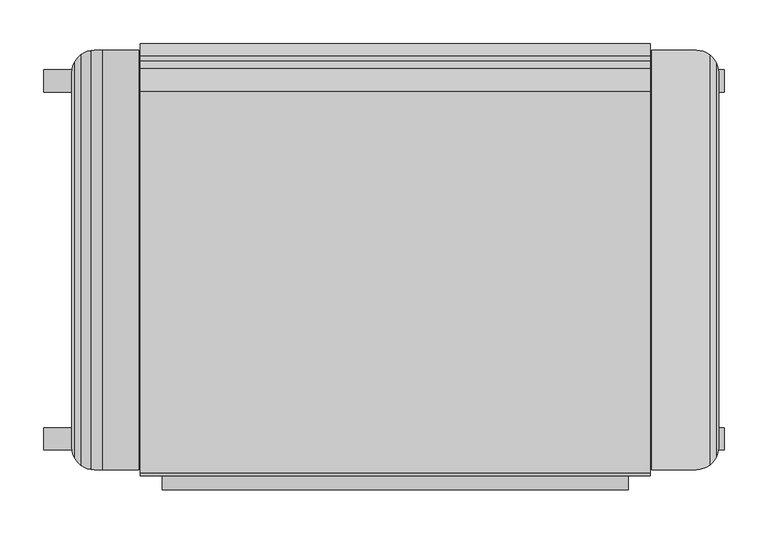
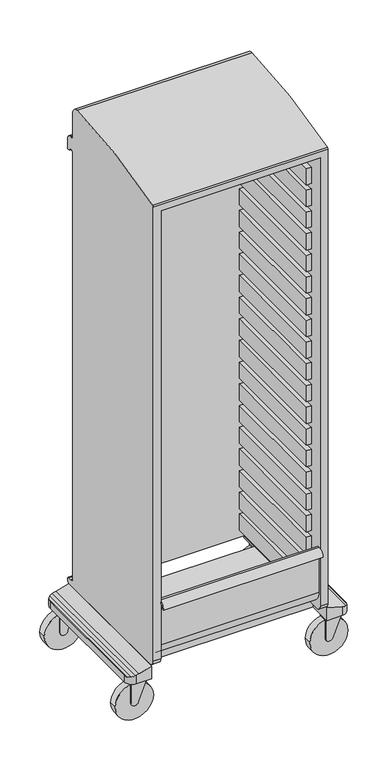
"""IFC4 building model written with IfcOpenShell, lengths in millimetres: furniture geometry."""

from ifc_helpers import new_model, si_unit, point, frame, frame_2d, origin, place, context, project, spatial, polyline, circle_curve, ellipse_curve, trimmed, segment, composite_curve, outline, extrude, source, transform, mapped, element, save
from ifc_brep_helpers import plane_surface, cylinder_surface, revolved_surface, advanced_brep


def furniture_57446897(model_context):
    return source(origin(), model_context, "Body", "SolidModel", [
        extrude(outline(polyline([(-249.2375, -195.2625), (-265.1125, -195.2625), (-265.1125, 192.0875), (-249.2375, 192.0875), (-249.2375, -195.2625)])), frame((0.0, 0.0, 428.625), z_axis=(0.0, 0.0, 1.0), x_axis=(1.0, 0.0, 0.0)), (0.0, 0.0, 1.0), 57.15),
        extrude(outline(polyline([(265.1125, -195.2625), (249.2375, -195.2625), (249.2375, 192.0875), (265.1125, 192.0875), (265.1125, -195.2625)])), frame((0.0, 0.0, 428.625), z_axis=(0.0, 0.0, 1.0), x_axis=(1.0, 0.0, 0.0)), (0.0, 0.0, 1.0), 57.15),
        extrude(outline(polyline([(-249.2375, -195.2625), (-265.1125, -195.2625), (-265.1125, 192.0875), (-249.2375, 192.0875), (-249.2375, -195.2625)])), frame((0.0, 0.0, 352.425), z_axis=(0.0, 0.0, 1.0), x_axis=(1.0, 0.0, 0.0)), (0.0, 0.0, 1.0), 57.15),
        extrude(outline(polyline([(265.1125, -195.2625), (249.2375, -195.2625), (249.2375, 192.0875), (265.1125, 192.0875), (265.1125, -195.2625)])), frame((0.0, 0.0, 352.425), z_axis=(0.0, 0.0, 1.0), x_axis=(1.0, 0.0, 0.0)), (0.0, 0.0, 1.0), 57.15),
        extrude(outline(polyline([(-249.2375, -195.2625), (-265.1125, -195.2625), (-265.1125, 192.0875), (-249.2375, 192.0875), (-249.2375, -195.2625)])), frame((0.0, 0.0, 276.225), z_axis=(0.0, 0.0, 1.0), x_axis=(1.0, 0.0, 0.0)), (0.0, 0.0, 1.0), 57.15),
        extrude(outline(polyline([(265.1125, -195.2625), (249.2375, -195.2625), (249.2375, 192.0875), (265.1125, 192.0875), (265.1125, -195.2625)])), frame((0.0, 0.0, 276.225), z_axis=(0.0, 0.0, 1.0), x_axis=(1.0, 0.0, 0.0)), (0.0, 0.0, 1.0), 57.15),
        extrude(outline(polyline([(-249.2375, -195.2625), (-265.1125, -195.2625), (-265.1125, 192.0875), (-249.2375, 192.0875), (-249.2375, -195.2625)])), frame((0.0, 0.0, 200.025), z_axis=(0.0, 0.0, 1.0), x_axis=(1.0, 0.0, 0.0)), (0.0, 0.0, 1.0), 57.15),
        extrude(outline(polyline([(265.1125, -195.2625), (249.2375, -195.2625), (249.2375, 192.0875), (265.1125, 192.0875), (265.1125, -195.2625)])), frame((0.0, 0.0, 200.025), z_axis=(0.0, 0.0, 1.0), x_axis=(1.0, 0.0, 0.0)), (0.0, 0.0, 1.0), 57.15),
        extrude(outline(polyline([(-249.2375, -195.2625), (-265.1125, -195.2625), (-265.1125, 192.0875), (-249.2375, 192.0875), (-249.2375, -195.2625)])), frame((0.0, 0.0, 733.425), z_axis=(0.0, 0.0, 1.0), x_axis=(1.0, 0.0, 0.0)), (0.0, 0.0, 1.0), 57.15),
        extrude(outline(polyline([(265.1125, -195.2625), (249.2375, -195.2625), (249.2375, 192.0875), (265.1125, 192.0875), (265.1125, -195.2625)])), frame((0.0, 0.0, 733.425), z_axis=(0.0, 0.0, 1.0), x_axis=(1.0, 0.0, 0.0)), (0.0, 0.0, 1.0), 57.15),
        extrude(outline(polyline([(-249.2375, -195.2625), (-265.1125, -195.2625), (-265.1125, 192.0875), (-249.2375, 192.0875), (-249.2375, -195.2625)])), frame((0.0, 0.0, 657.225), z_axis=(0.0, 0.0, 1.0), x_axis=(1.0, 0.0, 0.0)), (0.0, 0.0, 1.0), 57.15),
        extrude(outline(polyline([(265.1125, -195.2625), (249.2375, -195.2625), (249.2375, 192.0875), (265.1125, 192.0875), (265.1125, -195.2625)])), frame((0.0, 0.0, 657.225), z_axis=(0.0, 0.0, 1.0), x_axis=(1.0, 0.0, 0.0)), (0.0, 0.0, 1.0), 57.15),
        extrude(outline(polyline([(-249.2375, -195.2625), (-265.1125, -195.2625), (-265.1125, 192.0875), (-249.2375, 192.0875), (-249.2375, -195.2625)])), frame((0.0, 0.0, 581.025), z_axis=(0.0, 0.0, 1.0), x_axis=(1.0, 0.0, 0.0)), (0.0, 0.0, 1.0), 57.15),
        extrude(outline(polyline([(265.1125, -195.2625), (249.2375, -195.2625), (249.2375, 192.0875), (265.1125, 192.0875), (265.1125, -195.2625)])), frame((0.0, 0.0, 581.025), z_axis=(0.0, 0.0, 1.0), x_axis=(1.0, 0.0, 0.0)), (0.0, 0.0, 1.0), 57.15),
        extrude(outline(polyline([(-249.2375, -195.2625), (-265.1125, -195.2625), (-265.1125, 192.0875), (-249.2375, 192.0875), (-249.2375, -195.2625)])), frame((0.0, 0.0, 504.825), z_axis=(0.0, 0.0, 1.0), x_axis=(1.0, 0.0, 0.0)), (0.0, 0.0, 1.0), 57.15),
        extrude(outline(polyline([(265.1125, -195.2625), (249.2375, -195.2625), (249.2375, 192.0875), (265.1125, 192.0875), (265.1125, -195.2625)])), frame((0.0, 0.0, 504.825), z_axis=(0.0, 0.0, 1.0), x_axis=(1.0, 0.0, 0.0)), (0.0, 0.0, 1.0), 57.15),
        extrude(outline(polyline([(-249.2375, -195.2625), (-265.1125, -195.2625), (-265.1125, 192.0875), (-249.2375, 192.0875), (-249.2375, -195.2625)])), frame((0.0, 0.0, 1038.225), z_axis=(0.0, 0.0, 1.0), x_axis=(1.0, 0.0, 0.0)), (0.0, 0.0, 1.0), 57.15),
        extrude(outline(polyline([(265.1125, -195.2625), (249.2375, -195.2625), (249.2375, 192.0875), (265.1125, 192.0875), (265.1125, -195.2625)])), frame((0.0, 0.0, 1038.225), z_axis=(0.0, 0.0, 1.0), x_axis=(1.0, 0.0, 0.0)), (0.0, 0.0, 1.0), 57.15),
        extrude(outline(polyline([(-249.2375, -195.2625), (-265.1125, -195.2625), (-265.1125, 192.0875), (-249.2375, 192.0875), (-249.2375, -195.2625)])), frame((0.0, 0.0, 962.025), z_axis=(0.0, 0.0, 1.0), x_axis=(1.0, 0.0, 0.0)), (0.0, 0.0, 1.0), 57.15),
        extrude(outline(polyline([(265.1125, -195.2625), (249.2375, -195.2625), (249.2375, 192.0875), (265.1125, 192.0875), (265.1125, -195.2625)])), frame((0.0, 0.0, 962.025), z_axis=(0.0, 0.0, 1.0), x_axis=(1.0, 0.0, 0.0)), (0.0, 0.0, 1.0), 57.15),
        extrude(outline(polyline([(-249.2375, -195.2625), (-265.1125, -195.2625), (-265.1125, 192.0875), (-249.2375, 192.0875), (-249.2375, -195.2625)])), frame((0.0, 0.0, 885.825), z_axis=(0.0, 0.0, 1.0), x_axis=(1.0, 0.0, 0.0)), (0.0, 0.0, 1.0), 57.15),
        extrude(outline(polyline([(265.1125, -195.2625), (249.2375, -195.2625), (249.2375, 192.0875), (265.1125, 192.0875), (265.1125, -195.2625)])), frame((0.0, 0.0, 885.825), z_axis=(0.0, 0.0, 1.0), x_axis=(1.0, 0.0, 0.0)), (0.0, 0.0, 1.0), 57.15),
        extrude(outline(polyline([(-249.2375, -195.2625), (-265.1125, -195.2625), (-265.1125, 192.0875), (-249.2375, 192.0875), (-249.2375, -195.2625)])), frame((0.0, 0.0, 809.625), z_axis=(0.0, 0.0, 1.0), x_axis=(1.0, 0.0, 0.0)), (0.0, 0.0, 1.0), 57.15),
        extrude(outline(polyline([(265.1125, -195.2625), (249.2375, -195.2625), (249.2375, 192.0875), (265.1125, 192.0875), (265.1125, -195.2625)])), frame((0.0, 0.0, 809.625), z_axis=(0.0, 0.0, 1.0), x_axis=(1.0, 0.0, 0.0)), (0.0, 0.0, 1.0), 57.15),
        extrude(outline(polyline([(-249.2375, -195.2625), (-265.1125, -195.2625), (-265.1125, 192.0875), (-249.2375, 192.0875), (-249.2375, -195.2625)])), frame((0.0, 0.0, 1343.025), z_axis=(0.0, 0.0, 1.0), x_axis=(1.0, 0.0, 0.0)), (0.0, 0.0, 1.0), 57.15),
        extrude(outline(polyline([(265.1125, -195.2625), (249.2375, -195.2625), (249.2375, 192.0875), (265.1125, 192.0875), (265.1125, -195.2625)])), frame((0.0, 0.0, 1343.025), z_axis=(0.0, 0.0, 1.0), x_axis=(1.0, 0.0, 0.0)), (0.0, 0.0, 1.0), 57.15),
        extrude(outline(polyline([(-249.2375, -195.2625), (-265.1125, -195.2625), (-265.1125, 192.0875), (-249.2375, 192.0875), (-249.2375, -195.2625)])), frame((0.0, 0.0, 1266.825), z_axis=(0.0, 0.0, 1.0), x_axis=(1.0, 0.0, 0.0)), (0.0, 0.0, 1.0), 57.15),
        extrude(outline(polyline([(265.1125, -195.2625), (249.2375, -195.2625), (249.2375, 192.0875), (265.1125, 192.0875), (265.1125, -195.2625)])), frame((0.0, 0.0, 1266.825), z_axis=(0.0, 0.0, 1.0), x_axis=(1.0, 0.0, 0.0)), (0.0, 0.0, 1.0), 57.15),
        extrude(outline(polyline([(-249.2375, -195.2625), (-265.1125, -195.2625), (-265.1125, 192.0875), (-249.2375, 192.0875), (-249.2375, -195.2625)])), frame((0.0, 0.0, 1190.625), z_axis=(0.0, 0.0, 1.0), x_axis=(1.0, 0.0, 0.0)), (0.0, 0.0, 1.0), 57.15),
        extrude(outline(polyline([(265.1125, -195.2625), (249.2375, -195.2625), (249.2375, 192.0875), (265.1125, 192.0875), (265.1125, -195.2625)])), frame((0.0, 0.0, 1190.625), z_axis=(0.0, 0.0, 1.0), x_axis=(1.0, 0.0, 0.0)), (0.0, 0.0, 1.0), 57.15),
        extrude(outline(polyline([(-249.2375, -195.2625), (-265.1125, -195.2625), (-265.1125, 192.0875), (-249.2375, 192.0875), (-249.2375, -195.2625)])), frame((0.0, 0.0, 1114.425), z_axis=(0.0, 0.0, 1.0), x_axis=(1.0, 0.0, 0.0)), (0.0, 0.0, 1.0), 57.15),
        extrude(outline(polyline([(265.1125, -195.2625), (249.2375, -195.2625), (249.2375, 192.0875), (265.1125, 192.0875), (265.1125, -195.2625)])), frame((0.0, 0.0, 1114.425), z_axis=(0.0, 0.0, 1.0), x_axis=(1.0, 0.0, 0.0)), (0.0, 0.0, 1.0), 57.15),
        extrude(outline(polyline([(-249.2375, -195.2625), (-265.1125, -195.2625), (-265.1125, 192.0875), (-249.2375, 192.0875), (-249.2375, -195.2625)])), frame((0.0, 0.0, 1647.825), z_axis=(0.0, 0.0, 1.0), x_axis=(1.0, 0.0, 0.0)), (0.0, 0.0, 1.0), 57.15),
        extrude(outline(polyline([(265.1125, -195.2625), (249.2375, -195.2625), (249.2375, 192.0875), (265.1125, 192.0875), (265.1125, -195.2625)])), frame((0.0, 0.0, 1647.825), z_axis=(0.0, 0.0, 1.0), x_axis=(1.0, 0.0, 0.0)), (0.0, 0.0, 1.0), 57.15),
        extrude(outline(polyline([(-249.2375, -195.2625), (-265.1125, -195.2625), (-265.1125, 192.0875), (-249.2375, 192.0875), (-249.2375, -195.2625)])), frame((0.0, 0.0, 1571.625), z_axis=(0.0, 0.0, 1.0), x_axis=(1.0, 0.0, 0.0)), (0.0, 0.0, 1.0), 57.15),
        extrude(outline(polyline([(265.1125, -195.2625), (249.2375, -195.2625), (249.2375, 192.0875), (265.1125, 192.0875), (265.1125, -195.2625)])), frame((0.0, 0.0, 1571.625), z_axis=(0.0, 0.0, 1.0), x_axis=(1.0, 0.0, 0.0)), (0.0, 0.0, 1.0), 57.15),
        extrude(outline(polyline([(-249.2375, -195.2625), (-265.1125, -195.2625), (-265.1125, 192.0875), (-249.2375, 192.0875), (-249.2375, -195.2625)])), frame((0.0, 0.0, 1495.425), z_axis=(0.0, 0.0, 1.0), x_axis=(1.0, 0.0, 0.0)), (0.0, 0.0, 1.0), 57.15),
        extrude(outline(polyline([(265.1125, -195.2625), (249.2375, -195.2625), (249.2375, 192.0875), (265.1125, 192.0875), (265.1125, -195.2625)])), frame((0.0, 0.0, 1495.425), z_axis=(0.0, 0.0, 1.0), x_axis=(1.0, 0.0, 0.0)), (0.0, 0.0, 1.0), 57.15),
        extrude(outline(polyline([(-249.2375, -195.2625), (-265.1125, -195.2625), (-265.1125, 192.0875), (-249.2375, 192.0875), (-249.2375, -195.2625)])), frame((0.0, 0.0, 1419.225), z_axis=(0.0, 0.0, 1.0), x_axis=(1.0, 0.0, 0.0)), (0.0, 0.0, 1.0), 57.15),
        extrude(outline(polyline([(265.1125, -195.2625), (249.2375, -195.2625), (249.2375, 192.0875), (265.1125, 192.0875), (265.1125, -195.2625)])), frame((0.0, 0.0, 1419.225), z_axis=(0.0, 0.0, 1.0), x_axis=(1.0, 0.0, 0.0)), (0.0, 0.0, 1.0), 57.15),
        extrude(outline(composite_curve([segment(polyline([(129.4130068, 298.3484147), (51.6890037, 298.3484147)]), True, "CONTINUOUS"), segment(trimmed(circle_curve(frame_2d((51.6890037, 311.0485116)), 12.7000969), [point((51.6890037, 298.3484147))], [point((51.6890037, 323.7486085))], False, "CARTESIAN"), True, "CONTINUOUS"), segment(polyline([(51.6890037, 323.7486085), (129.4130068, 355.4984147), (129.4130068, 298.3484147)]), True, "CONTINUOUS")], self_intersect=False)), frame((0.0, -219.8341577, 0.0), z_axis=(0.0, 1.0, 0.0), x_axis=(0.0, 0.0, 1.0)), (0.0, 0.0, 1.0), 31.7499879),
        extrude(outline(composite_curve([segment(trimmed(circle_curve(frame_2d((53.2110825, 311.0484147)), 63.5), [point((53.2110825, 247.5484147))], [point((53.2110825, 374.5484147))], False, "CARTESIAN"), True, "CONTINUOUS"), segment(trimmed(circle_curve(frame_2d((53.2110825, 311.0484147)), 63.5), [point((53.2110825, 374.5484147))], [point((53.2110825, 247.5484147))], False, "CARTESIAN"), True, "CONTINUOUS")], self_intersect=False)), frame((0.0, -216.6591698, 0.0), z_axis=(0.0, 1.0, 0.0), x_axis=(0.0, 0.0, 1.0)), (0.0, 0.0, 1.0), 25.3999758),
        extrude(outline(composite_curve([segment(polyline([(129.4130068, 298.3484147), (51.6890037, 298.3484147)]), True, "CONTINUOUS"), segment(trimmed(circle_curve(frame_2d((51.6890037, 311.0485116)), 12.7000969), [point((51.6890037, 298.3484147))], [point((51.6890037, 323.7486085))], False, "CARTESIAN"), True, "CONTINUOUS"), segment(polyline([(51.6890037, 323.7486085), (129.4130068, 355.4984147), (129.4130068, 298.3484147)]), True, "CONTINUOUS")], self_intersect=False)), frame((0.0, 188.2140242, 0.0), z_axis=(0.0, 1.0, 0.0), x_axis=(0.0, 0.0, 1.0)), (0.0, 0.0, 1.0), 31.7499879),
        extrude(outline(composite_curve([segment(trimmed(circle_curve(frame_2d((53.2110825, 311.0484147)), 63.5), [point((53.2110825, 247.5484147))], [point((53.2110825, 374.5484147))], False, "CARTESIAN"), True, "CONTINUOUS"), segment(trimmed(circle_curve(frame_2d((53.2110825, 311.0484147)), 63.5), [point((53.2110825, 374.5484147))], [point((53.2110825, 247.5484147))], False, "CARTESIAN"), True, "CONTINUOUS")], self_intersect=False)), frame((0.0, 191.3890121, 0.0), z_axis=(0.0, 1.0, 0.0), x_axis=(0.0, 0.0, 1.0)), (0.0, 0.0, 1.0), 25.3999758),
        extrude(outline(composite_curve([segment(polyline([(129.4130068, -349.2960654), (51.6890037, -349.2960654)]), True, "CONTINUOUS"), segment(trimmed(circle_curve(frame_2d((51.6890037, -336.5959685)), 12.7000969), [point((51.6890037, -349.2960654))], [point((51.6890037, -323.8958716))], False, "CARTESIAN"), True, "CONTINUOUS"), segment(polyline([(51.6890037, -323.8958716), (129.4130068, -292.1460654), (129.4130068, -349.2960654)]), True, "CONTINUOUS")], self_intersect=False)), frame((0.0, 188.2140242, 0.0), z_axis=(0.0, 1.0, 0.0), x_axis=(0.0, 0.0, 1.0)), (0.0, 0.0, 1.0), 31.7499879),
        extrude(outline(composite_curve([segment(trimmed(circle_curve(frame_2d((53.2110825, -336.5960654)), 63.5), [point((53.2110825, -400.0960654))], [point((53.2110825, -273.0960654))], False, "CARTESIAN"), True, "CONTINUOUS"), segment(trimmed(circle_curve(frame_2d((53.2110825, -336.5960654)), 63.5), [point((53.2110825, -273.0960654))], [point((53.2110825, -400.0960654))], False, "CARTESIAN"), True, "CONTINUOUS")], self_intersect=False)), frame((0.0, 191.3890121, 0.0), z_axis=(0.0, 1.0, 0.0), x_axis=(0.0, 0.0, 1.0)), (0.0, 0.0, 1.0), 25.3999758),
        extrude(outline(composite_curve([segment(polyline([(129.4130068, -349.2960654), (51.6890037, -349.2960654)]), True, "CONTINUOUS"), segment(trimmed(circle_curve(frame_2d((51.6890037, -336.5959685)), 12.7000969), [point((51.6890037, -349.2960654))], [point((51.6890037, -323.8958716))], False, "CARTESIAN"), True, "CONTINUOUS"), segment(polyline([(51.6890037, -323.8958716), (129.4130068, -292.1460654), (129.4130068, -349.2960654)]), True, "CONTINUOUS")], self_intersect=False)), frame((0.0, -219.8341577, 0.0), z_axis=(0.0, 1.0, 0.0), x_axis=(0.0, 0.0, 1.0)), (0.0, 0.0, 1.0), 31.7499879),
        extrude(outline(composite_curve([segment(trimmed(circle_curve(frame_2d((53.2110825, -336.5960654)), 63.5), [point((53.2110825, -400.0960654))], [point((53.2110825, -273.0960654))], False, "CARTESIAN"), True, "CONTINUOUS"), segment(trimmed(circle_curve(frame_2d((53.2110825, -336.5960654)), 63.5), [point((53.2110825, -273.0960654))], [point((53.2110825, -400.0960654))], False, "CARTESIAN"), True, "CONTINUOUS")], self_intersect=False)), frame((0.0, -216.6591698, 0.0), z_axis=(0.0, 1.0, 0.0), x_axis=(0.0, 0.0, 1.0)), (0.0, 0.0, 1.0), 25.3999758),
        extrude(outline(polyline([(291.9984, 159.5120213), (291.9984, -159.5119651), (-291.9984, -159.5119651), (-291.9984, 159.5120213), (291.9984, 159.5120213)])), frame((0.0, 0.0, 129.4130068), z_axis=(0.0, 0.0, 1.0), x_axis=(1.0, 0.0, 0.0)), (0.0, 0.0, 1.0), 23.1139961),
        advanced_brep(
        [(-291.9984, 239.014, 129.4130068), (-291.9984, -239.014, 129.4130068), (-342.7984, -239.014, 129.4130068), (-368.1984, -213.614, 129.4130068), (-368.1984, 213.614, 129.4130068), (-342.7984, 239.014, 129.4130068), (-291.9984, 239.014, 173.9418579), (-291.9984, -239.014, 173.9418579), (-342.7984, 239.014, 158.9272187), (-333.1464698, 239.014, 161.6447785), (-368.1984, 213.614, 152.5270029), (-365.5302489, 224.9463892, 152.5270029), (-357.9318755, 234.0134588, 154.6663345), (-346.5601859, 238.7338919, 157.868065), (-368.1984, -213.614, 152.5270029), (-342.7984, -239.014, 158.9272187), (-346.5601859, -238.7338919, 157.868065), (-357.9318755, -234.0134588, 154.6663345), (-365.5302489, -224.9463892, 152.5270029), (-333.1464698, -239.014, 161.6447785)],
        [
            (0, 1),
            (1, 2),
            (2, 3, circle_curve(frame((-342.7984, -213.614, 129.4130068), z_axis=(0.0, 0.0, -1.0), x_axis=(1.0, 0.0, 0.0)), 25.4)),
            (3, 4),
            (4, 5, circle_curve(frame((-342.7984, 213.614, 129.4130068), z_axis=(0.0, 0.0, -1.0), x_axis=(1.0, 0.0, 0.0)), 25.4)),
            (5, 0),
            (0, 6),
            (6, 7),
            (7, 1),
            (5, 8),
            (8, 9),
            (9, 6),
            (4, 10),
            (10, 11, circle_curve(frame((-342.7984, 213.614, 152.5270029), z_axis=(0.0, 0.0, -1.0), x_axis=(1.0, 0.0, 0.0)), 25.4)),
            (11, 12, ellipse_curve(frame((-342.7984, 213.614, 158.9271837), z_axis=(0.27101429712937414, 0.0, -0.9625753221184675), x_axis=(0.9625753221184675, 0.0, 0.27101429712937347)), 26.3875454, 25.4)),
            (12, 13, ellipse_curve(frame((-342.7984, 213.614, 158.9272061), z_axis=(0.2710156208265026, 0.0, -0.9625749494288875), x_axis=(0.9625749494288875, 0.0, 0.27101562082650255)), 26.3875556, 25.4)),
            (13, 8, ellipse_curve(frame((-342.7984, 213.614, 158.9272187), z_axis=(0.2710186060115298, 0.0, -0.9625741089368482), x_axis=(0.9625741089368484, 0.0, 0.2710186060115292)), 26.3875786, 25.4)),
            (3, 14),
            (14, 10),
            (2, 15),
            (15, 16, ellipse_curve(frame((-342.7984, -213.614, 158.9272187), z_axis=(0.2710186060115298, 0.0, -0.9625741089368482), x_axis=(0.9625741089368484, 0.0, 0.2710186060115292)), 26.3875786, 25.4)),
            (16, 17, ellipse_curve(frame((-342.7984, -213.614, 158.9272061), z_axis=(0.2710156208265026, 0.0, -0.9625749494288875), x_axis=(0.9625749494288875, 0.0, 0.27101562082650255)), 26.3875556, 25.4)),
            (17, 18, ellipse_curve(frame((-342.7984, -213.614, 158.9271837), z_axis=(0.27101429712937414, 0.0, -0.9625753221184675), x_axis=(0.9625753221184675, 0.0, 0.27101429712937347)), 26.3875454, 25.4)),
            (18, 14, circle_curve(frame((-342.7984, -213.614, 152.5270029), z_axis=(0.0, 0.0, -1.0), x_axis=(1.0, 0.0, 0.0)), 25.4)),
            (7, 19),
            (19, 15),
            (9, 19),
            (18, 11),
            (17, 12),
            (16, 13),
        ],
        [
            plane_surface(frame((342.7984, -239.014, 129.4130068), z_axis=(0.0, 0.0, -1.0), x_axis=(-1.0, 0.0, 0.0))),
            plane_surface(frame((-291.9984, -239.014, 174.625), z_axis=(1.0, 0.0, 0.0), x_axis=(0.0, 0.0, -1.0))),
            plane_surface(frame((-291.9984, 239.014, 174.625), z_axis=(0.0, 1.0, 0.0), x_axis=(0.0, 0.0, -1.0))),
            cylinder_surface(frame((-342.7984, 213.614, -8.7020367), z_axis=(0.0, 0.0, 1.0), x_axis=(1.0, 0.0, 0.0)), 25.4),
            plane_surface(frame((-368.1984, 213.614, 174.625), z_axis=(-1.0, 0.0, 0.0), x_axis=(0.0, 0.0, -1.0))),
            cylinder_surface(frame((-342.7984, -213.614, -8.7020367), z_axis=(0.0, 0.0, 1.0), x_axis=(1.0, 0.0, 0.0)), 25.4),
            plane_surface(frame((-342.7984, -239.014, 174.625), z_axis=(0.0, -1.0, 0.0), x_axis=(0.0, 0.0, -1.0))),
            plane_surface(frame((-333.1464698, -239.014, 161.6447785), z_axis=(-0.28633640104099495, 0.0, 0.958129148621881), x_axis=(0.0, 1.0, 0.0))),
            plane_surface(frame((-368.1984, -239.014, 152.5270029), z_axis=(0.0, 0.0, 1.0), x_axis=(0.0, 1.0, 0.0))),
            plane_surface(frame((-365.5302489, -239.014, 152.5270029), z_axis=(-0.27101429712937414, 0.0, 0.9625753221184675), x_axis=(0.0, 1.0, 0.0))),
            plane_surface(frame((-357.9318755, -239.014, 154.6663345), z_axis=(-0.2710156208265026, 0.0, 0.9625749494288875), x_axis=(0.0, 1.0, 0.0))),
            plane_surface(frame((-346.5601859, -239.014, 157.868065), z_axis=(-0.2710186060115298, 0.0, 0.9625741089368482), x_axis=(0.0, 1.0, 0.0))),
        ],
        [
            (0, [[1, 2, 3, 4, 5, 6]]),
            (1, [[-1, 7, 8, 9]]),
            (2, [[-6, 10, 11, 12, -7]]),
            (3, [[-5, 13, 14, 15, 16, 17, -10]]),
            (4, [[-4, 18, 19, -13]]),
            (5, [[-3, 20, 21, 22, 23, 24, -18]]),
            (6, [[-2, -9, 25, 26, -20]]),
            (7, [[27, -25, -8, -12]]),
            (8, [[28, -14, -19, -24]]),
            (9, [[-28, -23, 29, -15]]),
            (10, [[-29, -22, 30, -16]]),
            (11, [[-27, -11, -17, -30, -21, -26]]),
        ],
    ),
        advanced_brep(
        [(291.9984, -239.014, 129.4130068), (291.9984, 239.014, 129.4130068), (342.7984, 239.014, 129.4130068), (368.1984, 213.614, 129.4130068), (368.1984, -213.614, 129.4130068), (342.7984, -239.014, 129.4130068), (342.7984, -239.014, 159.0938873), (291.9984, -239.014, 173.956172), (368.1984, -213.614, 152.5270029), (365.5300698, -224.9467484, 152.5270029), (357.9319871, -234.013376, 154.6663345), (368.1984, 213.614, 152.5270029), (342.7984, 239.014, 159.0938873), (357.9319871, 234.013376, 154.6663345), (365.5300698, 224.9467484, 152.5270029), (291.9984, 239.014, 173.956172)],
        [
            (0, 1),
            (1, 2),
            (2, 3, circle_curve(frame((342.7984, 213.614, 129.4130068), z_axis=(0.0, 0.0, -1.0), x_axis=(1.0, 0.0, 0.0)), 25.4)),
            (3, 4),
            (4, 5, circle_curve(frame((342.7984, -213.614, 129.4130068), z_axis=(0.0, 0.0, -1.0), x_axis=(1.0, 0.0, 0.0)), 25.4)),
            (5, 0),
            (5, 6),
            (6, 7),
            (7, 0),
            (4, 8),
            (8, 9, circle_curve(frame((342.7984, -213.614, 152.5270029), z_axis=(0.0, 0.0, -1.0), x_axis=(1.0, 0.0, 0.0)), 25.4)),
            (9, 10, ellipse_curve(frame((342.7984, -213.614, 158.9273781), z_axis=(-0.27102390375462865, 0.0, -0.9625726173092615), x_axis=(-0.9625726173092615, 0.0, 0.2710239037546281)), 26.3876195, 25.4)),
            (10, 6, ellipse_curve(frame((342.7984, -213.614, 159.0938873), z_axis=(-0.2807941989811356, 0.0, -0.9597680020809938), x_axis=(-0.9597680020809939, 0.0, 0.2807941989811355)), 26.4647289, 25.4)),
            (3, 11),
            (11, 8),
            (2, 12),
            (12, 13, ellipse_curve(frame((342.7984, 213.614, 159.0938873), z_axis=(-0.2807941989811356, 0.0, -0.9597680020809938), x_axis=(-0.9597680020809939, 0.0, 0.2807941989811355)), 26.4647289, 25.4)),
            (13, 14, ellipse_curve(frame((342.7984, 213.614, 158.9273781), z_axis=(-0.27102390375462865, 0.0, -0.9625726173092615), x_axis=(-0.9625726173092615, 0.0, 0.2710239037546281)), 26.3876195, 25.4)),
            (14, 11, circle_curve(frame((342.7984, 213.614, 152.5270029), z_axis=(0.0, 0.0, -1.0), x_axis=(1.0, 0.0, 0.0)), 25.4)),
            (1, 15),
            (15, 12),
            (7, 15),
            (10, 13),
            (9, 14),
        ],
        [
            plane_surface(frame((342.7984, -239.014, 129.4130068), z_axis=(0.0, 0.0, -1.0), x_axis=(-1.0, 0.0, 0.0))),
            plane_surface(frame((291.9984, -239.014, 174.625), z_axis=(0.0, -1.0, 0.0), x_axis=(0.0, 0.0, -1.0))),
            cylinder_surface(frame((342.7984, -213.614, 129.4130068), z_axis=(0.0, 0.0, 1.0), x_axis=(1.0, 0.0, 0.0)), 25.4),
            plane_surface(frame((368.1984, -213.614, 174.625), z_axis=(1.0, 0.0, 0.0), x_axis=(0.0, 0.0, -1.0))),
            cylinder_surface(frame((342.7984, 213.614, 129.4130068), z_axis=(0.0, 0.0, 1.0), x_axis=(1.0, 0.0, 0.0)), 25.4),
            plane_surface(frame((342.7984, 239.014, 174.625), z_axis=(0.0, 1.0, 0.0), x_axis=(0.0, 0.0, -1.0))),
            plane_surface(frame((291.9984, 239.014, 174.625), z_axis=(-1.0, 0.0, 0.0), x_axis=(0.0, 0.0, -1.0))),
            plane_surface(frame((289.712314, -239.014, 174.625), z_axis=(0.2807941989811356, 0.0, 0.9597680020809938), x_axis=(0.0, 1.0, 0.0))),
            plane_surface(frame((357.9319871, -239.014, 154.6663345), z_axis=(0.27102390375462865, 0.0, 0.9625726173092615), x_axis=(0.0, 1.0, 0.0))),
            plane_surface(frame((365.5300698, -239.014, 152.5270029), z_axis=(0.0, 0.0, 1.0), x_axis=(0.0, 1.0, 0.0))),
        ],
        [
            (0, [[1, 2, 3, 4, 5, 6]]),
            (1, [[-6, 7, 8, 9]]),
            (2, [[-5, 10, 11, 12, 13, -7]]),
            (3, [[-4, 14, 15, -10]]),
            (4, [[-3, 16, 17, 18, 19, -14]]),
            (5, [[-2, 20, 21, -16]]),
            (6, [[-1, -9, 22, -20]]),
            (7, [[23, -17, -21, -22, -8, -13]]),
            (8, [[-23, -12, 24, -18]]),
            (9, [[-24, -11, -15, -19]]),
        ],
    ),
        advanced_brep(
        [(290.5125, -246.0625, 193.675), (290.5125, -227.0125, 174.625), (290.5125, 239.7125, 174.625), (290.5125, 246.0625, 180.975), (290.5125, 246.0625, 187.325), (290.5125, 239.7125, 193.675), (290.5125, 228.6, 193.675), (290.5125, 217.4875, 204.7875), (290.5125, 217.4875, 1696.6032764), (290.5125, 236.7359375, 1696.6032764), (290.5125, 246.0625, 1696.6032764), (290.5125, 246.0625, 1735.0717496), (290.5125, 232.4695312, 1748.6647183), (290.5125, 227.1117187, 1748.6647183), (290.5125, 217.4875, 1758.2889371), (290.5125, 217.4875, 1838.325), (290.5125, 192.0875, 1863.725), (290.5125, -242.8127937, 1794.873234), (290.5125, -246.0625, 1789.6186651), (265.1125, -246.0625, 193.675), (265.1125, -227.0125, 174.625), (-290.5125, -246.0625, 193.675), (-290.5125, -227.0125, 174.625), (-265.1125, -227.0125, 174.625), (-265.1125, -246.0625, 193.675), (265.1125, 192.0875, 174.625), (-265.1125, 192.0875, 174.625), (-290.5125, 239.7125, 174.625), (-290.5125, 246.0625, 180.975), (-290.5125, 246.0625, 187.325), (-290.5125, 239.7125, 193.675), (-290.5125, 228.6, 193.675), (-290.5125, 217.4875, 204.7875), (-290.5125, 217.4875, 1696.6032764), (-290.5125, -246.0625, 1789.6186651), (-265.1125, -246.0625, 1768.475), (265.1125, -246.0625, 1768.475), (-290.5125, -242.8127937, 1794.873234), (-290.5125, 192.0875, 1863.725), (-290.5125, 217.4875, 1838.325), (-290.5125, 217.4875, 1758.2889371), (-290.5125, 227.1117187, 1748.6647183), (-290.5125, 232.4695312, 1748.6647183), (-290.5125, 246.0625, 1735.0717496), (-290.5125, 246.0625, 1696.6032764), (-290.5125, 236.7359375, 1696.6032764), (265.1125, 192.0875, 1832.5533426), (-265.1125, 192.0875, 1832.5533426)],
        [
            (0, 1, circle_curve(frame((290.5125, -227.0125, 193.675), z_axis=(1.0, 0.0, 0.0), x_axis=(0.0, 1.0, 0.0)), 19.05)),
            (1, 2),
            (2, 3, circle_curve(frame((290.5125, 239.7125, 180.975), z_axis=(1.0, 0.0, 0.0), x_axis=(0.0, 1.0, 0.0)), 6.35)),
            (3, 4),
            (4, 5, circle_curve(frame((290.5125, 239.7125, 187.325), z_axis=(1.0, 0.0, 0.0), x_axis=(0.0, 1.0, 0.0)), 6.35)),
            (5, 6),
            (6, 7, circle_curve(frame((290.5125, 228.6, 204.7875), z_axis=(-1.0, 0.0, 0.0), x_axis=(0.0, 1.0, 0.0)), 11.1125)),
            (7, 8),
            (8, 9, circle_curve(frame((290.5125, 227.1117187, 1696.6032764), z_axis=(-1.0, 0.0, 0.0), x_axis=(0.0, 1.0, 0.0)), 9.6242188)),
            (9, 10),
            (10, 11),
            (11, 12, circle_curve(frame((290.5125, 232.4695312, 1735.0717496), z_axis=(1.0, 0.0, 0.0), x_axis=(0.0, 1.0, 0.0)), 13.5929687)),
            (12, 13),
            (13, 14, circle_curve(frame((290.5125, 227.1117187, 1758.2889371), z_axis=(-1.0, 0.0, 0.0), x_axis=(0.0, 1.0, 0.0)), 9.6242187)),
            (14, 15),
            (15, 16, circle_curve(frame((290.5125, 192.0875, 1838.325), z_axis=(1.0, 0.0, 0.0), x_axis=(0.0, 1.0, 0.0)), 25.4)),
            (16, 17, circle_curve(frame((290.5125, 219.0245932, 285.6338105), z_axis=(1.0, 0.0, 0.0), x_axis=(0.0, 1.0, 0.0)), 1578.321073)),
            (17, 18, circle_curve(frame((290.5125, -240.1894945, 1789.6186651), z_axis=(1.0, 0.0, 0.0), x_axis=(0.0, 1.0, 0.0)), 5.8730055)),
            (18, 0),
            (0, 19),
            (19, 20, circle_curve(frame((265.1125, -227.0125, 193.675), z_axis=(1.0, 0.0, 0.0), x_axis=(0.0, 1.0, 0.0)), 19.05)),
            (20, 1),
            (21, 22, circle_curve(frame((-290.5125, -227.0125, 193.675), z_axis=(1.0, 0.0, 0.0), x_axis=(0.0, 1.0, 0.0)), 19.05)),
            (22, 23),
            (23, 24, circle_curve(frame((-265.1125, -227.0125, 193.675), z_axis=(-1.0, 0.0, 0.0), x_axis=(0.0, 1.0, 0.0)), 19.05)),
            (24, 21),
            (20, 25),
            (25, 26),
            (26, 23),
            (22, 27),
            (27, 2),
            (27, 28, circle_curve(frame((-290.5125, 239.7125, 180.975), z_axis=(1.0, 0.0, 0.0), x_axis=(0.0, 1.0, 0.0)), 6.35)),
            (28, 3),
            (28, 29),
            (29, 4),
            (29, 30, circle_curve(frame((-290.5125, 239.7125, 187.325), z_axis=(1.0, 0.0, 0.0), x_axis=(0.0, 1.0, 0.0)), 6.35)),
            (30, 5),
            (30, 31),
            (31, 6),
            (31, 32, circle_curve(frame((-290.5125, 228.6, 204.7875), z_axis=(-1.0, 0.0, 0.0), x_axis=(0.0, 1.0, 0.0)), 11.1125)),
            (32, 7),
            (32, 33),
            (33, 8),
            (18, 34),
            (34, 21),
            (24, 35),
            (35, 36),
            (36, 19),
            (34, 37, circle_curve(frame((-290.5125, -240.1894945, 1789.6186651), z_axis=(-1.0, 0.0, 0.0), x_axis=(0.0, 1.0, 0.0)), 5.8730055)),
            (37, 38, circle_curve(frame((-290.5125, 219.0245932, 285.6338105), z_axis=(-1.0, 0.0, 0.0), x_axis=(0.0, 1.0, 0.0)), 1578.321073)),
            (38, 39, circle_curve(frame((-290.5125, 192.0875, 1838.325), z_axis=(-1.0, 0.0, 0.0), x_axis=(0.0, 1.0, 0.0)), 25.4)),
            (39, 40),
            (40, 41, circle_curve(frame((-290.5125, 227.1117187, 1758.2889371), z_axis=(1.0, 0.0, 0.0), x_axis=(0.0, 1.0, 0.0)), 9.6242188)),
            (41, 42),
            (42, 43, circle_curve(frame((-290.5125, 232.4695312, 1735.0717496), z_axis=(-1.0, 0.0, 0.0), x_axis=(0.0, 1.0, 0.0)), 13.5929688)),
            (43, 44),
            (44, 45),
            (45, 33, circle_curve(frame((-290.5125, 227.1117187, 1696.6032764), z_axis=(1.0, 0.0, 0.0), x_axis=(0.0, 1.0, 0.0)), 9.6242188)),
            (36, 46),
            (46, 25),
            (26, 47),
            (47, 35),
            (46, 47),
            (45, 9),
            (44, 10),
            (43, 11),
            (42, 12),
            (41, 13),
            (40, 14),
            (39, 15),
            (38, 16),
            (37, 17),
        ],
        [
            plane_surface(frame((290.5125, -207.9625, 193.675), z_axis=(1.0, 0.0, 0.0), x_axis=(0.0, 0.0, 1.0))),
            cylinder_surface(frame((-290.5125, -227.0125, 193.675), z_axis=(1.0, 0.0, 0.0), x_axis=(0.0, 1.0, 0.0)), 19.05),
            plane_surface(frame((290.5125, -227.0125, 174.625), z_axis=(0.0, 0.0, -1.0), x_axis=(-1.0, 0.0, 0.0))),
            cylinder_surface(frame((-290.5125, 239.7125, 180.975), z_axis=(1.0, 0.0, 0.0), x_axis=(0.0, 1.0, 0.0)), 6.35),
            plane_surface(frame((290.5125, 246.0625, 180.975), z_axis=(0.0, 1.0, 0.0), x_axis=(-1.0, 0.0, 0.0))),
            cylinder_surface(frame((-290.5125, 239.7125, 187.325), z_axis=(1.0, 0.0, 0.0), x_axis=(0.0, 1.0, 0.0)), 6.35),
            plane_surface(frame((290.5125, 239.7125, 193.675), z_axis=(0.0, 0.0, 1.0), x_axis=(-1.0, 0.0, 0.0))),
            revolved_surface(polyline([(-290.5125, 239.7125, 204.7875), (290.5125, 239.7125, 204.7875)]), (-290.5125, 228.6, 204.7875), (-1.0, 0.0, 0.0)),
            plane_surface(frame((290.5125, 217.4875, 204.7875), z_axis=(0.0, 1.0, 0.0), x_axis=(-1.0, 0.0, 0.0))),
            plane_surface(frame((290.5125, -246.0625, 1789.6186651), z_axis=(0.0, -1.0, -1.1655566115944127e-12), x_axis=(-1.0, 0.0, 0.0))),
            plane_surface(frame((-290.5125, -207.9625, 193.675), z_axis=(-1.0, 0.0, 0.0), x_axis=(0.0, 0.0, -1.0))),
            plane_surface(frame((265.1125, 192.0875, 174.625), z_axis=(-1.0, 0.0, 0.0), x_axis=(0.0, 0.0, 1.0))),
            plane_surface(frame((-265.1125, 192.0875, 174.625), z_axis=(1.0, 0.0, 0.0), x_axis=(0.0, 0.0, -1.0))),
            plane_surface(frame((265.1125, 192.0875, 174.625), z_axis=(0.0, -1.0, 0.0), x_axis=(-1.0, 0.0, 0.0))),
            revolved_surface(polyline([(-290.5125, 236.7359375, 1696.6032764), (290.5125, 236.7359375, 1696.6032764)]), (-290.5125, 227.1117187, 1696.6032764), (-1.0, 0.0, 0.0)),
            plane_surface(frame((290.5125, 236.7359375, 1696.6032764), z_axis=(0.0, 0.0, -1.0), x_axis=(-1.0, 0.0, 0.0))),
            plane_surface(frame((290.5125, 246.0625, 1696.6032764), z_axis=(0.0, 1.0, 0.0), x_axis=(-1.0, 0.0, 0.0))),
            cylinder_surface(frame((-290.5125, 232.4695312, 1735.0717496), z_axis=(1.0, 0.0, 0.0), x_axis=(0.0, 1.0, 0.0)), 13.5929687),
            plane_surface(frame((290.5125, 232.4695312, 1748.6647183), z_axis=(0.0, 0.0, 1.0), x_axis=(-1.0, 0.0, 0.0))),
            revolved_surface(polyline([(-290.5125, 236.7359375, 1758.2889371), (290.5125, 236.7359375, 1758.2889371)]), (-290.5125, 227.1117187, 1758.2889371), (-1.0, 0.0, 0.0)),
            plane_surface(frame((290.5125, 217.4875, 1758.2889371), z_axis=(0.0, 1.0, 0.0), x_axis=(-1.0, 0.0, 0.0))),
            cylinder_surface(frame((-290.5125, 192.0875, 1838.325), z_axis=(1.0, 0.0, 0.0), x_axis=(0.0, 1.0, 0.0)), 25.4),
            cylinder_surface(frame((-290.5125, 219.0245932, 285.6338105), z_axis=(1.0, 0.0, 0.0), x_axis=(0.0, 1.0, 0.0)), 1578.321073),
            cylinder_surface(frame((-290.5125, -240.1894945, 1789.6186651), z_axis=(1.0, 0.0, 0.0), x_axis=(0.0, 1.0, 0.0)), 5.8730055),
            plane_surface(frame((265.1125, 192.0875, 1832.5533426), z_axis=(0.0, 0.14470815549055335, -0.9894743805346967), x_axis=(-1.0, 0.0, 0.0))),
        ],
        [
            (0, [[1, 2, 3, 4, 5, 6, 7, 8, 9, 10, 11, 12, 13, 14, 15, 16, 17, 18, 19]]),
            (1, [[-1, 20, 21, 22]]),
            (1, [[23, 24, 25, 26]]),
            (2, [[-2, -22, 27, 28, 29, -24, 30, 31]]),
            (3, [[-3, -31, 32, 33]]),
            (4, [[-4, -33, 34, 35]]),
            (5, [[-5, -35, 36, 37]]),
            (6, [[-6, -37, 38, 39]]),
            (7, [[-7, -39, 40, 41]]),
            (8, [[-8, -41, 42, 43]]),
            (9, [[-19, 44, 45, -26, 46, 47, 48, -20]]),
            (10, [[-45, 49, 50, 51, 52, 53, 54, 55, 56, 57, 58, -42, -40, -38, -36, -34, -32, -30, -23]]),
            (11, [[59, 60, -27, -21, -48]]),
            (12, [[61, 62, -46, -25, -29]]),
            (13, [[-60, 63, -61, -28]]),
            (14, [[-9, -43, -58, 64]]),
            (15, [[-10, -64, -57, 65]]),
            (16, [[-11, -65, -56, 66]]),
            (17, [[-12, -66, -55, 67]]),
            (18, [[-13, -67, -54, 68]]),
            (19, [[-14, -68, -53, 69]]),
            (20, [[-15, -69, -52, 70]]),
            (21, [[-16, -70, -51, 71]]),
            (22, [[-17, -71, -50, 72]]),
            (23, [[-18, -72, -49, -44]]),
            (24, [[-59, -47, -62, -63]]),
        ],
    ),
        extrude(outline(composite_curve([segment(trimmed(circle_curve(frame_2d((-195.2625, 238.125)), 38.1), [point((-233.3625, 238.125))], [point((-195.2625, 200.025))], True, "CARTESIAN"), True, "CONTINUOUS"), segment(polyline([(-195.2625, 200.025), (0.0, 200.025), (0.0, 193.675), (-195.2625, 193.675)]), True, "CONTINUOUS"), segment(trimmed(circle_curve(frame_2d((-195.2625, 238.125)), 44.45), [point((-195.2625, 193.675))], [point((-239.7125, 238.125))], False, "CARTESIAN"), True, "CONTINUOUS"), segment(polyline([(-239.7125, 238.125), (-239.7125, 390.525)]), True, "CONTINUOUS"), segment(trimmed(circle_curve(frame_2d((-239.7125, 374.65)), 15.875), [point((-239.7125, 390.525))], [point((-255.5875, 374.65))], True, "CARTESIAN"), True, "CONTINUOUS"), segment(polyline([(-255.5875, 374.65), (-261.9375, 374.65)]), True, "CONTINUOUS"), segment(trimmed(circle_curve(frame_2d((-239.7125, 374.65)), 22.225), [point((-261.9375, 374.65))], [point((-239.7125, 396.875))], False, "CARTESIAN"), True, "CONTINUOUS"), segment(polyline([(-239.7125, 396.875), (-233.3625, 396.875), (-233.3625, 238.125)]), True, "CONTINUOUS")], self_intersect=False)), frame((-265.1125, 0.0, 0.0), z_axis=(1.0, 0.0, 0.0), x_axis=(0.0, 1.0, 0.0)), (0.0, 0.0, 1.0), 530.225),
    ])


if __name__ == "__main__":
    model = new_model("IFC4")
    model_context = context("Model", 3, world=origin())
    ifc_project = project(units=[si_unit("LENGTHUNIT", "METRE", prefix="MILLI")], contexts=[model_context])
    site = spatial("IfcSite", under=ifc_project)
    building = spatial("IfcBuilding", under=site)
    placement = place(None, origin())
    furniture_shape = furniture_57446897(model_context)
    element("IfcFurniture", 1, ObjectType="HermanMiller_CoStruc_CO561_LockerWithTambourDoor : 72\"H x 20\"D x 22\"W", at=placement, inside=building, context=model_context, shape_type="MappedRepresentation", body=[
        mapped(furniture_shape, transform((0.0, 0.0, 0.0), x_axis=(1.0, 0.0, 0.0), y_axis=(0.0, 1.0, 0.0), z_axis=(0.0, 0.0, 1.0))),
    ])
    save(model, "model.ifc")
